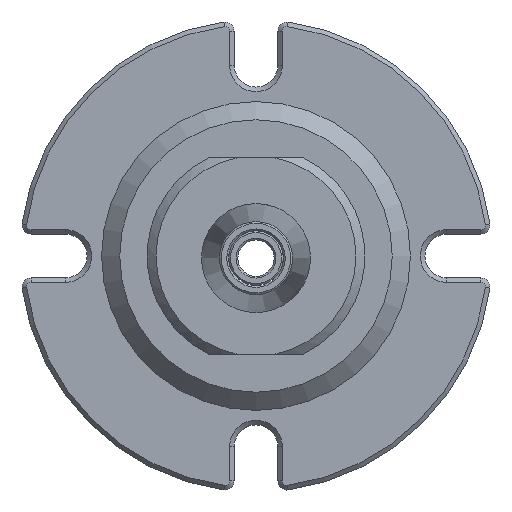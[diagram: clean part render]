
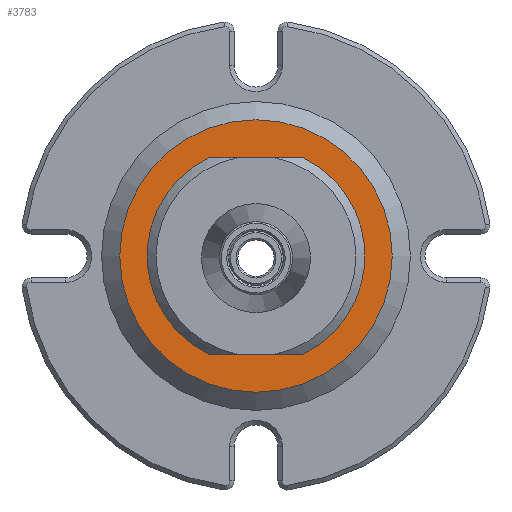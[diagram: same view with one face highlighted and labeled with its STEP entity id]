
A CAD part, left-side view. The second image highlights one B-rep face of the part: STEP entity #3783.
In plain terms, the highlighted planar face has unit normal (-1, 0, 0).
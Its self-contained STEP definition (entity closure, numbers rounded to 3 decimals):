
#86 = CARTESIAN_POINT ( 'NONE',  ( -144.89, 33.679, 13.957 ) ) ;
#117 = EDGE_CURVE ( 'NONE', #4235, #4235, #330, .T. ) ;
#330 = CIRCLE ( 'NONE', #1526, 7.5 ) ;
#336 = DIRECTION ( 'NONE',  ( -1., 0., 0. ) ) ;
#490 = CARTESIAN_POINT ( 'NONE',  ( -144.89, 30.294, 19.357 ) ) ;
#654 = DIRECTION ( 'NONE',  ( 0., 0., -1. ) ) ;
#687 = CARTESIAN_POINT ( 'NONE',  ( -144.89, 27.679, 13.957 ) ) ;
#720 = CARTESIAN_POINT ( 'NONE',  ( -144.89, 30.294, 8.557 ) ) ;
#780 = VECTOR ( 'NONE', #1696, 1000. ) ;
#825 = EDGE_CURVE ( 'NONE', #2493, #903, #2461, .T. ) ;
#890 = CARTESIAN_POINT ( 'NONE',  ( -144.89, 25.064, 8.557 ) ) ;
#903 = VERTEX_POINT ( 'NONE', #720 ) ;
#966 = CIRCLE ( 'NONE', #2817, 6. ) ;
#1203 = DIRECTION ( 'NONE',  ( 0., 0., -1. ) ) ;
#1204 = VECTOR ( 'NONE', #2971, 1000. ) ;
#1450 = ORIENTED_EDGE ( 'NONE', *, *, #825, .T. ) ;
#1526 = AXIS2_PLACEMENT_3D ( 'NONE', #687, #336, #2131 ) ;
#1561 = CARTESIAN_POINT ( 'NONE',  ( -144.89, 40.679, 19.357 ) ) ;
#1696 = DIRECTION ( 'NONE',  ( 0., 1., 0. ) ) ;
#1881 = DIRECTION ( 'NONE',  ( 1., 0., 0. ) ) ;
#1935 = CARTESIAN_POINT ( 'NONE',  ( -144.89, 25.064, 19.357 ) ) ;
#2131 = DIRECTION ( 'NONE',  ( 0., 0., -1. ) ) ;
#2171 = EDGE_CURVE ( 'NONE', #4324, #2493, #966, .T. ) ;
#2226 = DIRECTION ( 'NONE',  ( 1., 0., 0. ) ) ;
#2461 = LINE ( 'NONE', #4243, #780 ) ;
#2493 = VERTEX_POINT ( 'NONE', #890 ) ;
#2553 = CARTESIAN_POINT ( 'NONE',  ( -144.89, 27.679, 6.457 ) ) ;
#2586 = CARTESIAN_POINT ( 'NONE',  ( -144.89, 27.679, 13.957 ) ) ;
#2733 = CARTESIAN_POINT ( 'NONE',  ( -144.89, 27.679, 13.957 ) ) ;
#2765 = EDGE_LOOP ( 'NONE', ( #3212, #3478, #3301, #1450 ) ) ;
#2817 = AXIS2_PLACEMENT_3D ( 'NONE', #2586, #2226, #4026 ) ;
#2889 = AXIS2_PLACEMENT_3D ( 'NONE', #86, #1881, #1203 ) ;
#2971 = DIRECTION ( 'NONE',  ( 0., 1., 0. ) ) ;
#2988 = EDGE_CURVE ( 'NONE', #4324, #3400, #3313, .T. ) ;
#3093 = EDGE_LOOP ( 'NONE', ( #4114 ) ) ;
#3212 = ORIENTED_EDGE ( 'NONE', *, *, #3985, .T. ) ;
#3234 = PLANE ( 'NONE',  #2889 ) ;
#3256 = CIRCLE ( 'NONE', #3769, 6. ) ;
#3301 = ORIENTED_EDGE ( 'NONE', *, *, #2171, .T. ) ;
#3313 = LINE ( 'NONE', #1561, #1204 ) ;
#3400 = VERTEX_POINT ( 'NONE', #490 ) ;
#3478 = ORIENTED_EDGE ( 'NONE', *, *, #2988, .F. ) ;
#3624 = FACE_BOUND ( 'NONE', #2765, .T. ) ;
#3769 = AXIS2_PLACEMENT_3D ( 'NONE', #2733, #4423, #654 ) ;
#3783 = ADVANCED_FACE ( 'NONE', ( #3624, #3993 ), #3234, .F. ) ;
#3985 = EDGE_CURVE ( 'NONE', #903, #3400, #3256, .T. ) ;
#3993 = FACE_OUTER_BOUND ( 'NONE', #3093, .T. ) ;
#4026 = DIRECTION ( 'NONE',  ( 0., 0., -1. ) ) ;
#4114 = ORIENTED_EDGE ( 'NONE', *, *, #117, .T. ) ;
#4235 = VERTEX_POINT ( 'NONE', #2553 ) ;
#4243 = CARTESIAN_POINT ( 'NONE',  ( -144.89, 40.679, 8.557 ) ) ;
#4324 = VERTEX_POINT ( 'NONE', #1935 ) ;
#4423 = DIRECTION ( 'NONE',  ( 1., 0., 0. ) ) ;
